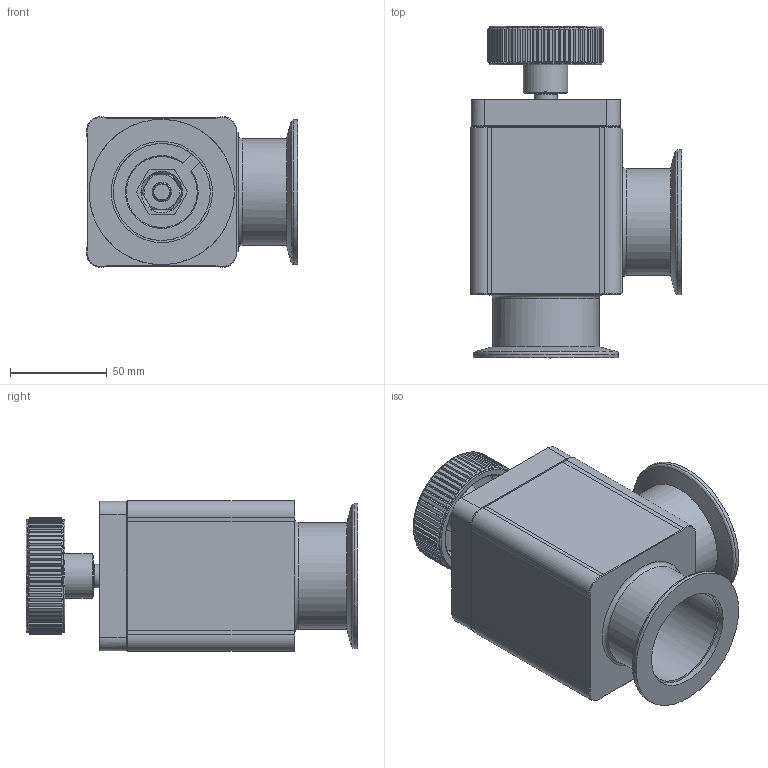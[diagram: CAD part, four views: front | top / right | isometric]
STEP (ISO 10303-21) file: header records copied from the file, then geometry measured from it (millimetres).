
FILE_DESCRIPTION((''),'2;1');
FILE_NAME('C:\TEMP\IDEAS\260714.stp','2006-09-19T16:12:44',('User'),( 'SDRC'),'I-DEAS Master Series 9','UNIX','Yes');
FILE_SCHEMA(('CONFIG_CONTROL_DESIGN'));
Length unit declared in the file: millimetre
Assembly tree (14 placements, depth 0):
Bounding box: 108.8 x 171.06 x 77.59 mm (x, y, z)
Volume: 392779 mm3; surface area: 137220.8 mm2
Topology: 21 solids, 21 shells, 778 faces, 1728 edges, 1027 vertices
Faces by surface type: bspline 778
Entity records: 24869 total; most frequent: CARTESIAN_POINT 13888, ORIENTED_EDGE 3224, EDGE_CURVE 1612, VERTEX_POINT 954, EDGE_LOOP 782, FACE_OUTER_BOUND 721, ADVANCED_FACE 721, QUASI_UNIFORM_CURVE 608
